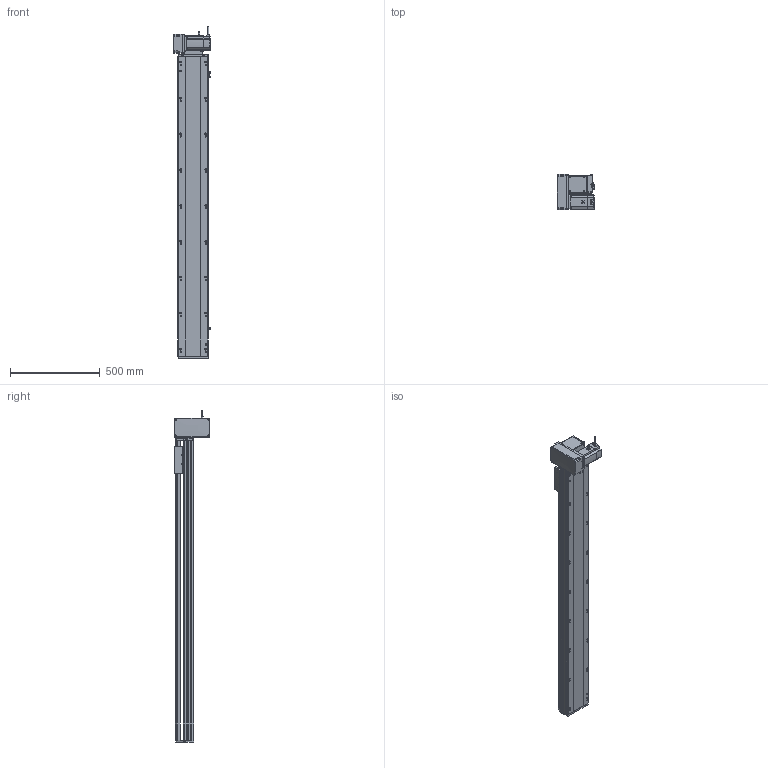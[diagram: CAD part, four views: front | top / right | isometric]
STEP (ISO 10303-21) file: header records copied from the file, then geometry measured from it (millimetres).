
FILE_DESCRIPTION (( 'STEP AP214' ), '1' );
FILE_NAME ('RTB17S-XX-1400-LM-M75-C4.STEP', '2025-12-12T00:40:58', ( '' ), ( '' ), 'SwSTEP 2.0', 'SolidWorks 2018', '' );
FILE_SCHEMA (( 'AUTOMOTIVE_DESIGN' ));
Length unit declared in the file: millimetre
Products named in the file (15): RTB22S-GY-008-M75--萇儂啣^RTB17S-LM-々湍釱蚾饜-750W_RTB17S-XX-XX-LM-M75-C4; RTB17S-L-014-T20-P75--々湍釱^RTB17S-LM-々湍釱蚾饜-750W_RTB17S-XX-XX-LM-M75-C4; RTB22S-GY-017P^RTB17S-LM-々湍釱蚾饜-750W_RTB17S-XX-XX-LM-M75-C4; RTB22S-GY-005P^RTB17S-LM-々湍釱蚾饜-750W_RTB17S-XX-XX-LM-M75-C4; RTB17S-L-001-耜醱啣^RTB17S-XX-XX-LM-M75-C4; RTB17S-LM-々湍釱蚾饜-750W^RTB17S-XX-XX-LM-M75-C4; RTB17S-L-004-賑釱^RTB17S-賑釱_RTB17S-XX-XX-LM-M75-C4; RTB22S-GY-018P^RTB17S-LM-々湍釱蚾饜-750W_RTB17S-XX-XX-LM-M75-C4; EE672^RTB17S-XX-XX-LM-M75-C4; RTB17-R-011菁釱^RTB17S-XX-XX-LM-M75-C4; RTB17S-L-007奻裔^RTB17S-XX-XX-LM-M75-C4; RTB17S-賑釱^RTB17S-XX-XX-LM-M75-C4; RTH13-BL-012覜茼え俋离^RTB17S-賑釱_RTB17S-XX-XX-LM-M75-C4; 750W萇儂^RTB17S-XX-XX-LM-M75-C4; RTB17S-XX-1400-LM-M75-C4
Assembly tree (17 placements, depth 3):
  RTB17S-XX-1400-LM-M75-C4
    RTB17-R-011菁釱^RTB17S-XX-XX-LM-M75-C4
    EE672^RTB17S-XX-XX-LM-M75-C4  x3
    RTB17S-L-001-耜醱啣^RTB17S-XX-XX-LM-M75-C4
    RTB17S-賑釱^RTB17S-XX-XX-LM-M75-C4
      RTB17S-L-004-賑釱^RTB17S-賑釱_RTB17S-XX-XX-LM-M75-C4
      RTH13-BL-012覜茼え俋离^RTB17S-賑釱_RTB17S-XX-XX-LM-M75-C4
    RTB17S-L-007奻裔^RTB17S-XX-XX-LM-M75-C4
    750W萇儂^RTB17S-XX-XX-LM-M75-C4
    RTB17S-LM-々湍釱蚾饜-750W^RTB17S-XX-XX-LM-M75-C4
      RTB17S-L-014-T20-P75--々湍釱^RTB17S-LM-々湍釱蚾饜-750W_RTB17S-XX-XX-LM-M75-C4
      RTB22S-GY-005P^RTB17S-LM-々湍釱蚾饜-750W_RTB17S-XX-XX-LM-M75-C4
      RTB22S-GY-017P^RTB17S-LM-々湍釱蚾饜-750W_RTB17S-XX-XX-LM-M75-C4  x2
      RTB22S-GY-008-M75--萇儂啣^RTB17S-LM-々湍釱蚾饜-750W_RTB17S-XX-XX-LM-M75-C4
      RTB22S-GY-018P^RTB17S-LM-々湍釱蚾饜-750W_RTB17S-XX-XX-LM-M75-C4
Bounding box: 210.4 x 200 x 1852.2 mm (x, y, z)
Volume: 14704223.7 mm3; surface area: 2561351.4 mm2
Topology: 17 solids, 17 shells, 2121 faces, 5890 edges, 3806 vertices
Faces by surface type: plane 974, cylinder 731, bspline 294, cone 110, sphere 8, torus 4
Entity records: 59638 total; most frequent: CARTESIAN_POINT 17554, ORIENTED_EDGE 8624, DIRECTION 8042, EDGE_CURVE 4312, AXIS2_PLACEMENT_3D 2826, VERTEX_POINT 2810, VECTOR 2390, LINE 2390
